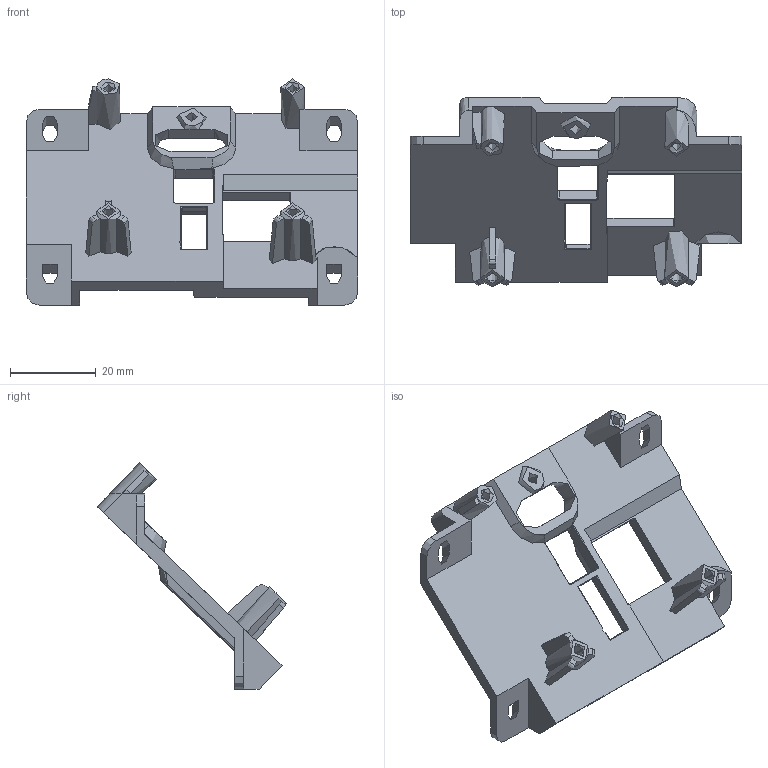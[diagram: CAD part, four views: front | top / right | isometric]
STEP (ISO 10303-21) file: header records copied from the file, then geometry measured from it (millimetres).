
FILE_DESCRIPTION(/* description */ ('STEP AP242 Edition 2','CAx-IF Rec.Pracs.---Representation and Presentation of Product Manufacturing Information (PMI)---4.0---2014-10-13','CAx-IF Rec.Pracs.---3D Tessellated Geometry---0.4---2014-09-14','2;1','CAx-IF Rec.Pracs.---User Defined Attributes---1.5---2016-08-15'),/* implementation_level */ '2;1');
FILE_NAME(/* name */ 'Assy_ForMFG - Head_Panel_Mount_Back',/* time_stamp */ '2026-05-15T19:56:10Z',/* author */ (''),/* organization */ (''),/* preprocessor_version */ 'ST-DEVELOPER v20',/* originating_system */ 'ONSHAPE BY PTC INC, 1.215',/* authorisation */ ' ');
FILE_SCHEMA (('AP242_MANAGED_MODEL_BASED_3D_ENGINEERING_MIM_LF { 1 0 10303 442 3 1 4 }'));
Length unit declared in the file: metre
Products named in the file (1): Head_Panel_Mount_Back
Bounding box: 77.37 x 44.21 x 52.79 mm (x, y, z)
Volume: 12504.9 mm3; surface area: 11128 mm2
Topology: 1 solids, 1 shells, 215 faces, 601 edges, 389 vertices
Faces by surface type: plane 116, cylinder 64, cone 14, bspline 14, torus 6, sphere 1
Full cylindrical faces by diameter (mm): 2.5 x4, 3 x1, 5.5 x4
Entity records: 7215 total; most frequent: CARTESIAN_POINT 1733, ORIENTED_EDGE 1146, DIRECTION 1124, EDGE_CURVE 573, AXIS2_PLACEMENT_3D 382, VERTEX_POINT 376, LINE 360, VECTOR 360
